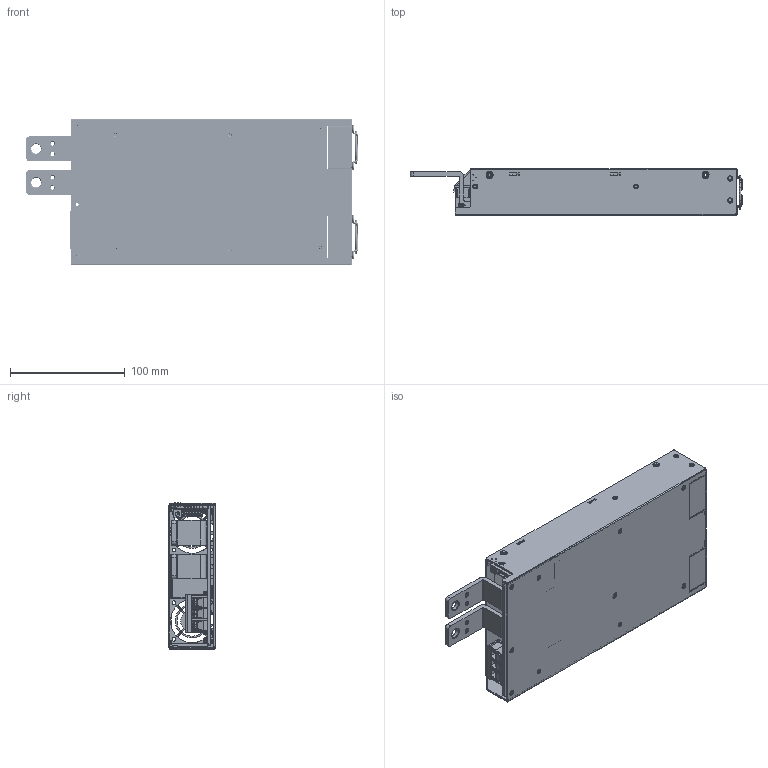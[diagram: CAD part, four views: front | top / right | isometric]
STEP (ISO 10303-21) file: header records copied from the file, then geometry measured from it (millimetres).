
FILE_DESCRIPTION((''),'2;1');
FILE_NAME('PRT0001','2026-05-22T',('pe218'),(''),'PRO/ENGINEER BY PARAMETRIC TECHNOLOGY CORPORATION, 2014000','PRO/ENGINEER BY PARAMETRIC TECHNOLOGY CORPORATION, 2014000','');
FILE_SCHEMA(('CONFIG_CONTROL_DESIGN'));
Products named in the file (1): PRT0001
Bounding box: 289.33 x 40.58 x 127.45 mm (x, y, z)
Volume: 192607.4 mm3; surface area: 301262.9 mm2
Topology: 9 solids, 27 shells, 3202 faces, 8996 edges, 5798 vertices
Faces by surface type: plane 1638, cylinder 938, bspline 306, torus 154, cone 154, extrusion 12
Entity records: 168401 total; most frequent: CARTESIAN_POINT 77171, ORIENTED_EDGE 17968, DIRECTION 15647, EDGE_CURVE 8984, VERTEX_POINT 5798, AXIS2_PLACEMENT_3D 5230, VECTOR 5187, LINE 5175
